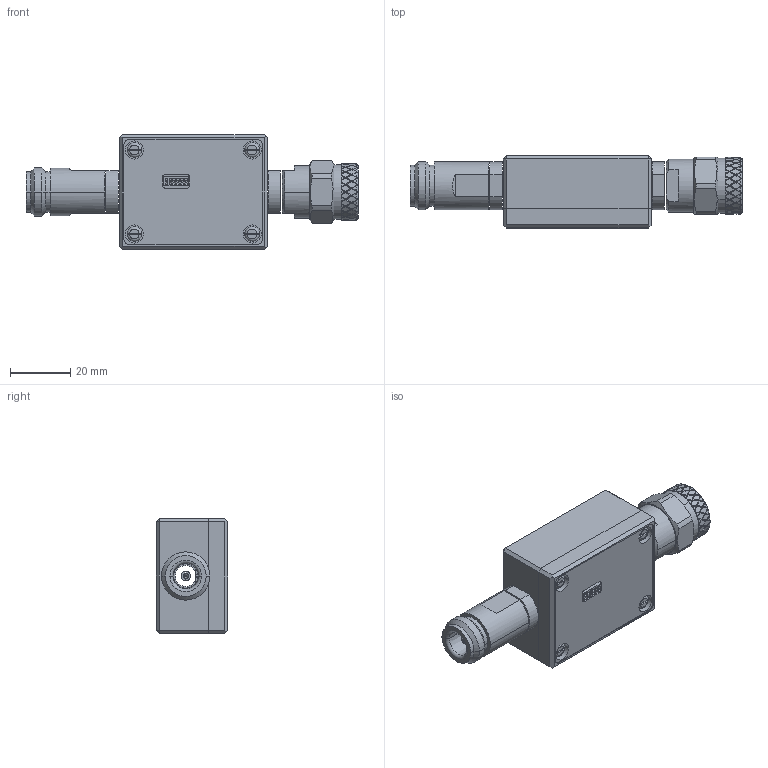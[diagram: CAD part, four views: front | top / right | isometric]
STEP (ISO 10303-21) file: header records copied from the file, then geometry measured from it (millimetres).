
FILE_DESCRIPTION (( 'STEP AP203' ), '1' );
FILE_NAME ('R0344.00.000-01 ACM6000T mod.012.STEP', '2020-06-10T09:09:20', ( '' ), ( '' ), 'SwSTEP 2.0', 'SolidWorks 2014', '' );
FILE_SCHEMA (( 'CONFIG_CONTROL_DESIGN' ));
Length unit declared in the file: millimetre
Products named in the file (1): R0344.00.000-01 ACM6000T mod.012
Bounding box: 109.96 x 23.8 x 37.8 mm (x, y, z)
Surface area: 16456.1 mm2 (no closed solid volume)
Topology: 0 solids, 32 shells, 916 faces, 2609 edges, 1734 vertices
Faces by surface type: plane 354, bspline 290, cylinder 184, cone 76, torus 12
Entity records: 37967 total; most frequent: CARTESIAN_POINT 17051, ORIENTED_EDGE 4548, DIRECTION 3325, EDGE_CURVE 2609, VERTEX_POINT 1734, AXIS2_PLACEMENT_3D 1132, VECTOR 1061, LINE 1061
